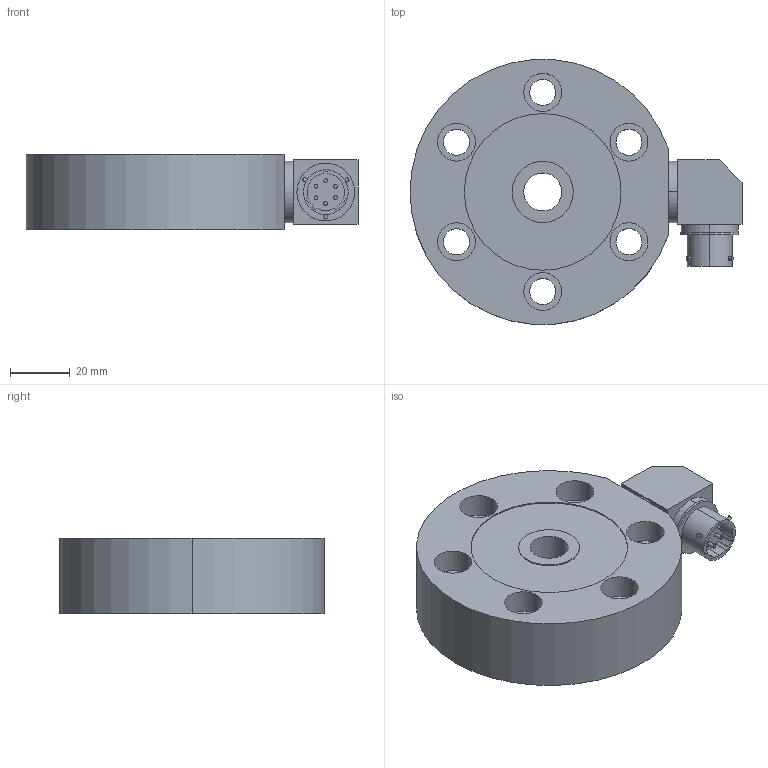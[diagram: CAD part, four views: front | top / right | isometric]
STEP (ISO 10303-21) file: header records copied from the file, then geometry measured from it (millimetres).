
FILE_DESCRIPTION (( 'STEP AP203' ), '1' );
FILE_NAME ('Interface 2430-2K THRU -5K.STEP', '2012-05-22T21:22:26', ( ' ' ), ( '' ), 'SwSTEP 2.0', 'SolidWorks 2002349', '' );
FILE_SCHEMA (( 'CONFIG_CONTROL_DESIGN' ));
Length unit declared in the file: inch
Products named in the file (1): Interface 2430-2K THRU -5K
Bounding box: 111.18 x 88.62 x 25.27 mm (x, y, z)
Volume: 150037.8 mm3; surface area: 27585.8 mm2
Topology: 1 solids, 1 shells, 116 faces, 270 edges, 180 vertices
Faces by surface type: cylinder 68, plane 48
Entity records: 3535 total; most frequent: CARTESIAN_POINT 647, DIRECTION 626, ORIENTED_EDGE 540, EDGE_CURVE 270, AXIS2_PLACEMENT_3D 247, VERTEX_POINT 180, EDGE_LOOP 154, LINE 132
